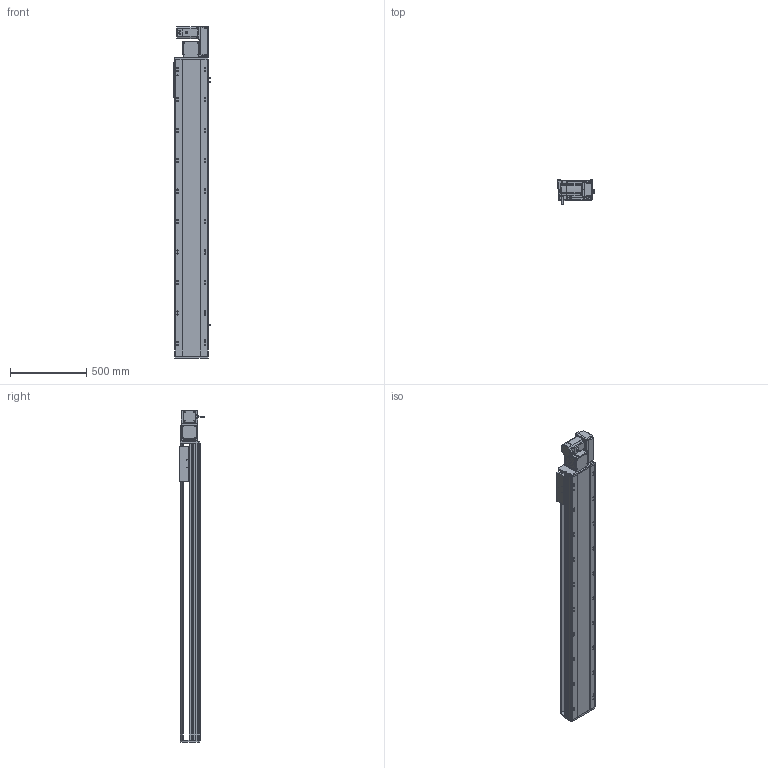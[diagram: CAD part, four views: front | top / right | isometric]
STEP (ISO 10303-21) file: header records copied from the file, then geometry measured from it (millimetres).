
FILE_DESCRIPTION (( 'STEP AP214' ), '1' );
FILE_NAME ('RTB22S-XX-1600-R-M75-C4.STEP', '2025-12-12T07:22:59', ( '' ), ( '' ), 'SwSTEP 2.0', 'SolidWorks 2018', '' );
FILE_SCHEMA (( 'AUTOMOTIVE_DESIGN' ));
Length unit declared in the file: millimetre
Products named in the file (14): RTB22S-GY-001耜裔^RTB22S-XX-XX-R-M75-C4; OMRON EE-SX672 传感器^RTB22S-XX-XX-R-M75-C4; RTB22S-L-004賑釱^RTB22S-XX-XX-R-M75-C4; RTH22-GY-013外置感应片^RTB22S-XX-XX-R-M75-C4; RTB22S-GY-007奻裔^RTB22S-XX-XX-R-M75-C4; RTB22S-GY-005P^RTB22S-R-々湍釱蚾饜_RTB22S-XX-XX-R-M75-C4; RTB22S-GY-017P^RTB22S-R-々湍釱蚾饜_RTB22S-XX-XX-R-M75-C4; RTB22S-GY-008-M75--萇儂啣^RTB22S-R-々湍釱蚾饜_RTB22S-XX-XX-R-M75-C4; RTB22S-XX-1600-R-M75-C4; RTB22S-R-々湍釱蚾饜^RTB22S-XX-XX-R-M75-C4; RTB22S-GY-018P^RTB22S-R-々湍釱蚾饜_RTB22S-XX-XX-R-M75-C4; RTB22S-GY-014--々湍釱^RTB22S-R-々湍釱蚾饜_RTB22S-XX-XX-R-M75-C4; 750W萇儂^RTB22S-XX-XX-R-M75-C4; RTB22S-L-011菁釱^RTB22S-XX-XX-R-M75-C4
Assembly tree (16 placements, depth 3):
  RTB22S-XX-1600-R-M75-C4
    RTB22S-L-011菁釱^RTB22S-XX-XX-R-M75-C4
    RTB22S-GY-001耜裔^RTB22S-XX-XX-R-M75-C4
    750W萇儂^RTB22S-XX-XX-R-M75-C4
    RTB22S-GY-007奻裔^RTB22S-XX-XX-R-M75-C4
    RTB22S-L-004賑釱^RTB22S-XX-XX-R-M75-C4
    RTH22-GY-013外置感应片^RTB22S-XX-XX-R-M75-C4
    OMRON EE-SX672 传感器^RTB22S-XX-XX-R-M75-C4  x3
    RTB22S-R-々湍釱蚾饜^RTB22S-XX-XX-R-M75-C4
      RTB22S-GY-014--々湍釱^RTB22S-R-々湍釱蚾饜_RTB22S-XX-XX-R-M75-C4
      RTB22S-GY-017P^RTB22S-R-々湍釱蚾饜_RTB22S-XX-XX-R-M75-C4  x2
      RTB22S-GY-005P^RTB22S-R-々湍釱蚾饜_RTB22S-XX-XX-R-M75-C4
      RTB22S-GY-008-M75--萇儂啣^RTB22S-R-々湍釱蚾饜_RTB22S-XX-XX-R-M75-C4
      RTB22S-GY-018P^RTB22S-R-々湍釱蚾饜_RTB22S-XX-XX-R-M75-C4
Bounding box: 238.5 x 162.7 x 2179 mm (x, y, z)
Volume: 28283003.8 mm3; surface area: 2914140 mm2
Topology: 15 solids, 15 shells, 2019 faces, 5486 edges, 3512 vertices
Faces by surface type: plane 919, cylinder 646, bspline 296, cone 146, sphere 8, torus 4
Entity records: 54084 total; most frequent: CARTESIAN_POINT 15468, ORIENTED_EDGE 7744, DIRECTION 7486, EDGE_CURVE 3872, AXIS2_PLACEMENT_3D 2654, VERTEX_POINT 2516, LINE 2178, VECTOR 2178
